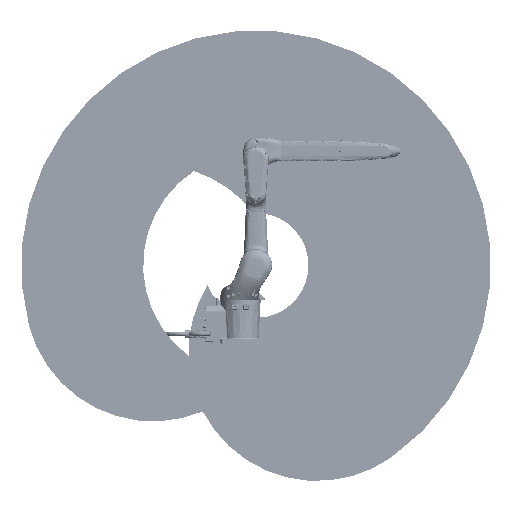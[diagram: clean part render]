
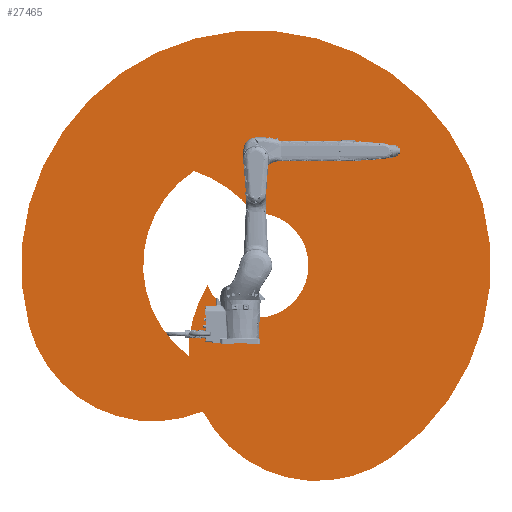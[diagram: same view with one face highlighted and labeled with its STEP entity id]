
A CAD part, front view. The second image highlights one B-rep face of the part: STEP entity #27465.
In plain terms, the highlighted planar face has unit normal (0, 0, -1) by its records, which use the part's own axes.
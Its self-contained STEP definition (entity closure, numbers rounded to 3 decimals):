
#9033=FACE_BOUND('',#53384,.T.);
#9034=FACE_BOUND('',#53385,.T.);
#27465=ADVANCED_FACE('',(#9033,#9034),#32164,.T.);
#32164=PLANE('',#179558);
#53384=EDGE_LOOP('',(#125940,#125941,#125942));
#53385=EDGE_LOOP('',(#125943,#125944,#125945,#125946));
#80389=CIRCLE('',#179551,821.523);
#80390=CIRCLE('',#179552,1501.523);
#80391=CIRCLE('',#179553,821.523);
#80392=CIRCLE('',#179554,721.672);
#80393=CIRCLE('',#179555,821.523);
#80394=CIRCLE('',#179556,335.577);
#80395=CIRCLE('',#179557,821.523);
#125940=ORIENTED_EDGE('',*,*,#162822,.T.);
#125941=ORIENTED_EDGE('',*,*,#162823,.T.);
#125942=ORIENTED_EDGE('',*,*,#162824,.T.);
#125943=ORIENTED_EDGE('',*,*,#162825,.T.);
#125944=ORIENTED_EDGE('',*,*,#162826,.T.);
#125945=ORIENTED_EDGE('',*,*,#162827,.T.);
#125946=ORIENTED_EDGE('',*,*,#162828,.T.);
#140043=VERTEX_POINT('',#409592);
#140044=VERTEX_POINT('',#409593);
#140045=VERTEX_POINT('',#409595);
#140046=VERTEX_POINT('',#409598);
#140047=VERTEX_POINT('',#409599);
#140048=VERTEX_POINT('',#409601);
#140049=VERTEX_POINT('',#409603);
#162822=EDGE_CURVE('',#140043,#140044,#80389,.T.);
#162823=EDGE_CURVE('',#140044,#140045,#80390,.T.);
#162824=EDGE_CURVE('',#140045,#140043,#80391,.T.);
#162825=EDGE_CURVE('',#140046,#140047,#80392,.T.);
#162826=EDGE_CURVE('',#140047,#140048,#80393,.T.);
#162827=EDGE_CURVE('',#140048,#140049,#80394,.T.);
#162828=EDGE_CURVE('',#140049,#140046,#80395,.T.);
#179551=AXIS2_PLACEMENT_3D('',#409591,#222398,#222399);
#179552=AXIS2_PLACEMENT_3D('',#409594,#222400,#222401);
#179553=AXIS2_PLACEMENT_3D('',#409596,#222402,#222403);
#179554=AXIS2_PLACEMENT_3D('',#409597,#222404,#222405);
#179555=AXIS2_PLACEMENT_3D('',#409600,#222406,#222407);
#179556=AXIS2_PLACEMENT_3D('',#409602,#222408,#222409);
#179557=AXIS2_PLACEMENT_3D('',#409604,#222410,#222411);
#179558=AXIS2_PLACEMENT_3D('',#409605,#222412,#222413);
#222398=DIRECTION('',(0.,0.,-1.));
#222399=DIRECTION('',(1.,0.,0.));
#222400=DIRECTION('',(0.,0.,-1.));
#222401=DIRECTION('',(1.,0.,0.));
#222402=DIRECTION('',(0.,0.,-1.));
#222403=DIRECTION('',(1.,0.,0.));
#222404=DIRECTION('',(0.,0.,1.));
#222405=DIRECTION('',(1.,0.,0.));
#222406=DIRECTION('',(0.,0.,-1.));
#222407=DIRECTION('',(1.,0.,0.));
#222408=DIRECTION('',(0.,0.,1.));
#222409=DIRECTION('',(1.,0.,0.));
#222410=DIRECTION('',(0.,0.,1.));
#222411=DIRECTION('',(1.,0.,0.));
#222412=DIRECTION('',(0.,0.,-1.));
#222413=DIRECTION('',(-1.,0.,0.));
#409591=CARTESIAN_POINT('',(2926.318,1576.91,0.));
#409592=CARTESIAN_POINT('',(3243.223,818.971,0.));
#409593=CARTESIAN_POINT('',(2132.788,1364.284,0.));
#409594=CARTESIAN_POINT('',(3583.148,1752.907,0.));
#409595=CARTESIAN_POINT('',(4444.386,522.932,0.));
#409596=CARTESIAN_POINT('',(3973.18,1195.884,0.));
#409597=CARTESIAN_POINT('',(3583.148,1752.907,0.));
#409598=CARTESIAN_POINT('',(3186.846,2356.028,0.));
#409599=CARTESIAN_POINT('',(3151.943,1174.226,0.));
#409600=CARTESIAN_POINT('',(3973.18,1195.884,0.));
#409601=CARTESIAN_POINT('',(3272.797,1625.259,0.));
#409602=CARTESIAN_POINT('',(3583.148,1752.907,0.));
#409603=CARTESIAN_POINT('',(3569.344,2088.2,0.));
#409604=CARTESIAN_POINT('',(2926.318,1576.91,0.));
#409605=CARTESIAN_POINT('',(3254.733,1664.909,0.));
